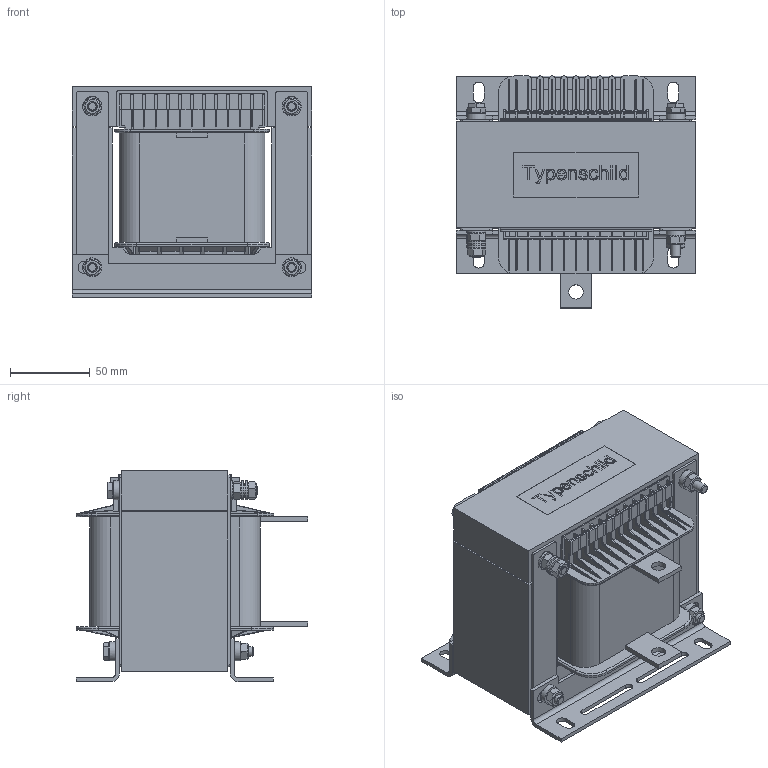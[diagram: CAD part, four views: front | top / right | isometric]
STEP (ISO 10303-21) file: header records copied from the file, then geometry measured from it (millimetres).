
FILE_DESCRIPTION((''),'2;1');
FILE_NAME('C:\Users\fp1\CAD-Daten\DEG\DEG0,8 63.stp','2014-06-26T11:21:03',('FP1'),(''),'Autodesk Inventor 2013','Autodesk Inventor 2013','');
FILE_SCHEMA(('AUTOMOTIVE_DESIGN { 1 0 10303 214 1 1 1 1 }'));
Length unit declared in the file: millimetre
Products named in the file (1): Bauteil129
Bounding box: 150 x 145.47 x 132.62 mm (x, y, z)
Volume: 1531905.7 mm3; surface area: 303208.6 mm2
Topology: 2 solids, 2 shells, 1322 faces, 3688 edges, 2355 vertices
Faces by surface type: plane 722, cylinder 402, bspline 89, torus 70, cone 39
Full cylindrical faces by diameter (mm): 6 x8, 6.1 x7, 6.4 x10, 7.6 x7, 8 x4, 8.88 x4, 9 x2, 12 x10
Entity records: 42598 total; most frequent: CARTESIAN_POINT 8932, ORIENTED_EDGE 7192, DIRECTION 6843, EDGE_CURVE 3596, VERTEX_POINT 2334, VECTOR 2289, LINE 2289, AXIS2_PLACEMENT_3D 2277
